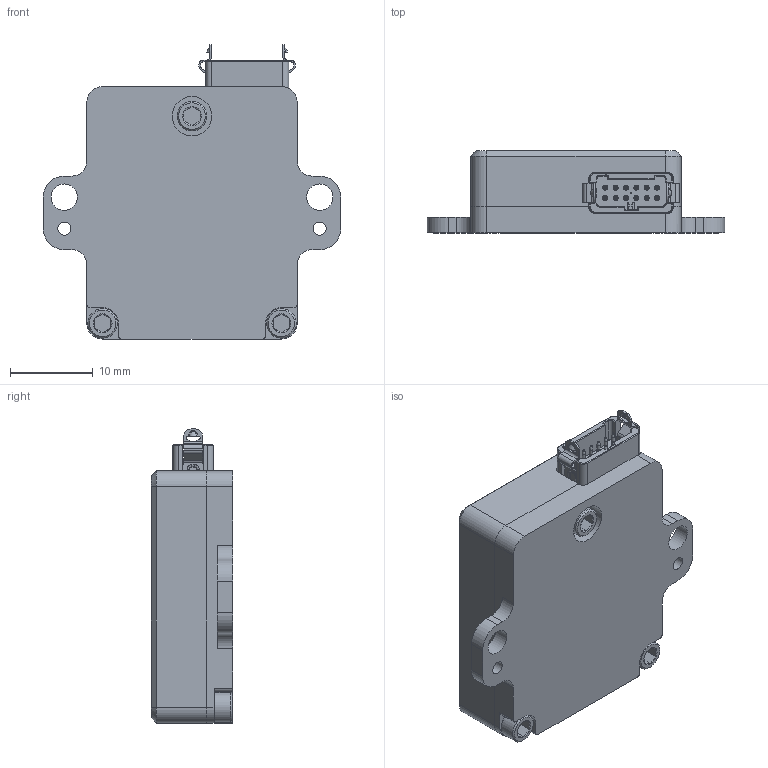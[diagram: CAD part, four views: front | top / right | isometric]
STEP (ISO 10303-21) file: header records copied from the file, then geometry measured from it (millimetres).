
FILE_DESCRIPTION(/* description */ (''),/* implementation_level */ '2;1');
FILE_NAME(/* name */ '/Users/andrewpriddis/Downloads/RUG-21-G0.step',/* time_stamp */ '2022-08-30T20:55:19-06:00',/* author */ (''),/* organization */ (''),/* preprocessor_version */ 'ST-DEVELOPER v19',/* originating_system */ 'Autodesk Translation Framework v11.7.0.108',/* authorisation */ '');
FILE_SCHEMA (('AUTOMOTIVE_DESIGN { 1 0 10303 214 3 1 1 }'));
Products named in the file (11): Housing Design IMX5 Rugged Units; RUG_r2.1.0-G0 (PCB Only); H1; g125-mv11205l1_asm; G125-3011296; G125-1030005; G125-414; IMX5 RUG-G0 Top; IMX RUG-G0 Bottom; 92196A051_18-8 Stainless Steel Socket Head Screw; 92196A077_18-8 Stainless Steel Socket Head Screw
Assembly tree (25 placements, depth 5):
  Housing Design IMX5 Rugged Units
    RUG_r2.1.0-G0 (PCB Only)
      H1
        g125-mv11205l1_asm
          G125-3011296
          G125-1030005  x12
          G125-414  x2
    IMX5 RUG-G0 Top
    IMX RUG-G0 Bottom
    92196A051_18-8 Stainless Steel Socket Head Screw  x2
    92196A077_18-8 Stainless Steel Socket Head Screw  x3
Bounding box: 35.92 x 9.89 x 35.53 mm (x, y, z)
Volume: 2445.9 mm3; surface area: 6226.1 mm2
Topology: 23 solids, 23 shells, 2814 faces, 6740 edges, 4008 vertices
Faces by surface type: bspline 1477, plane 642, cylinder 398, torus 228, cone 69
Full cylindrical faces by diameter (mm): 0.05 x4, 0.127 x1, 0.4 x24, 0.41 x12, 1.112 x12, 1.245 x2, 1.524 x12, 1.595 x39, 1.6 x2, 1.783 x3, 2.184 x39, 2.261 x3, 2.438 x2, 3.175 x2, 3.572 x3, 4.775 x1
Entity records: 41764 total; most frequent: CARTESIAN_POINT 19145, ORIENTED_EDGE 4994, DIRECTION 4088, EDGE_CURVE 2497, VERTEX_POINT 1586, LINE 1418, VECTOR 1418, AXIS2_PLACEMENT_3D 1335
